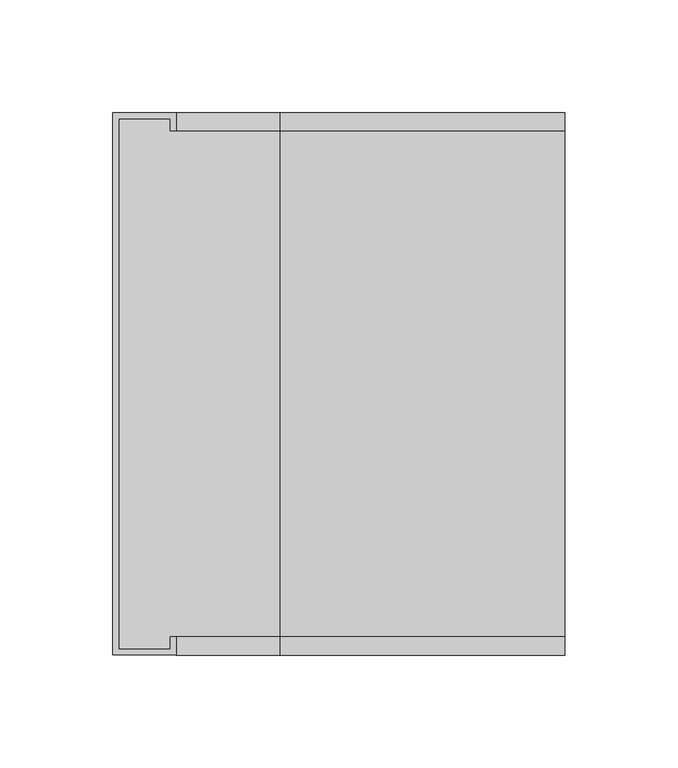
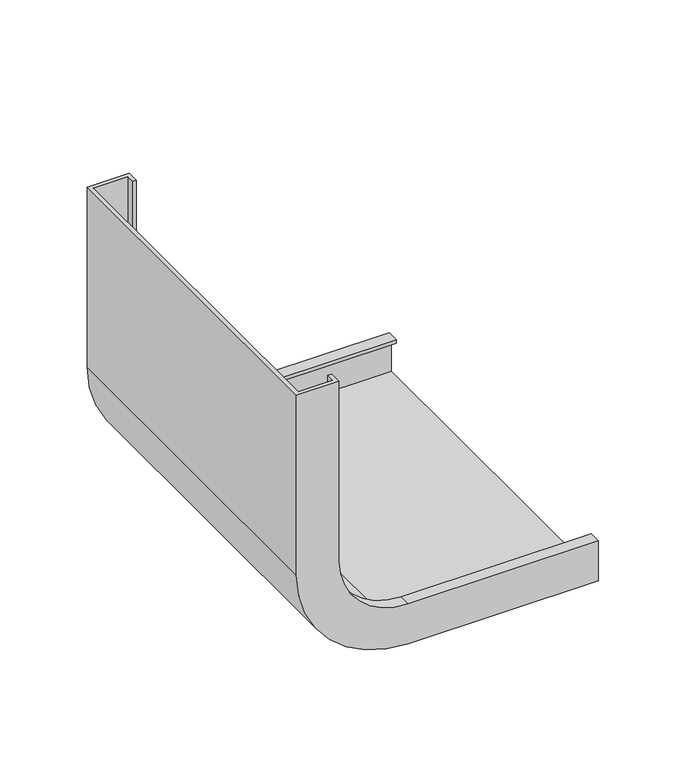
"""IFC4 building model written with IfcOpenShell, lengths in millimetres: cable carrier fitting geometry, Electrical-Installations_Hager_Vertical-Elbow-UKK : Vertical-Elbow-2-Compartments-UKK."""

from ifc_helpers import new_model, si_unit, frame, origin, place, context, project, spatial, polyline, circle_curve, source, transform, mapped, element, save
from ifc_brep_helpers import plane_surface, cylinder_surface, revolved_surface, advanced_brep


def cable_carrier_fitting_1449447f(model_context):
    return source(origin(), model_context, "Body", "AdvancedBrep", [
        advanced_brep(
        [(0.0, -120.0, 14.0), (0.0, -120.0, -14.0), (0.0, 120.0, -14.0), (0.0, 120.0, 14.0), (0.0, 112.0398749, 14.0), (0.0, 112.0398749, 11.46), (0.0, 117.46, 11.46), (0.0, 117.46, -11.46), (0.0, -117.46, -11.46), (0.0, -117.46, 11.46), (0.0, -111.8310402, 11.46), (0.0, -111.8310402, 14.0), (-126.0, -120.0, 14.0), (-172.0, -120.0, 60.0), (-172.0, -120.0, 186.0), (-200.0, -120.0, 186.0), (-200.0, -120.0, 60.0), (-126.0, -120.0, -14.0), (-126.0, 120.0, -14.0), (-200.0, 120.0, 60.0), (-200.0, 120.0, 186.0), (-172.0, 120.0, 186.0), (-172.0, 120.0, 60.0), (-126.0, 120.0, 14.0), (-126.0, 112.0398749, 14.0), (-172.0, 112.0398749, 60.0), (-172.0, 112.0398749, 186.0), (-174.54, 112.0398749, 186.0), (-174.54, 112.0398749, 60.0), (-126.0, 112.0398749, 11.46), (-126.0, 117.46, 11.46), (-174.54, 117.46, 60.0), (-174.54, 117.46, 186.0), (-197.46, 117.46, 186.0), (-197.46, 117.46, 60.0), (-126.0, 117.46, -11.46), (-126.0, -117.46, -11.46), (-197.46, -117.46, 60.0), (-197.46, -117.46, 186.0), (-174.54, -117.46, 186.0), (-174.54, -117.46, 60.0), (-126.0, -117.46, 11.46), (-126.0, -111.8310402, 11.46), (-174.54, -111.8310402, 60.0), (-174.54, -111.8310402, 186.0), (-172.0, -111.8310402, 186.0), (-172.0, -111.8310402, 60.0), (-126.0, -111.8310402, 14.0)],
        [
            (0, 1),
            (1, 2),
            (2, 3),
            (3, 4),
            (4, 5),
            (5, 6),
            (6, 7),
            (7, 8),
            (8, 9),
            (9, 10),
            (10, 11),
            (11, 0),
            (0, 12),
            (12, 13, circle_curve(frame((-126.0, -120.0, 60.0), z_axis=(0.0, 1.0, 0.0), x_axis=(0.0, 0.0, -1.0)), 46.0)),
            (13, 14),
            (14, 15),
            (15, 16),
            (16, 17, circle_curve(frame((-126.0, -120.0, 60.0), z_axis=(0.0, -1.0, 0.0), x_axis=(0.0, 0.0, -1.0)), 74.0)),
            (17, 1),
            (17, 18),
            (18, 2),
            (18, 19, circle_curve(frame((-126.0, 120.0, 60.0), z_axis=(0.0, 1.0, 0.0), x_axis=(0.0, 0.0, -1.0)), 74.0)),
            (19, 20),
            (20, 21),
            (21, 22),
            (22, 23, circle_curve(frame((-126.0, 120.0, 60.0), z_axis=(0.0, -1.0, 0.0), x_axis=(0.0, 0.0, -1.0)), 46.0)),
            (23, 3),
            (23, 24),
            (24, 4),
            (24, 25, circle_curve(frame((-126.0, 112.0398749, 60.0), z_axis=(0.0, 1.0, 0.0), x_axis=(0.0, 0.0, -1.0)), 46.0)),
            (25, 26),
            (26, 27),
            (27, 28),
            (28, 29, circle_curve(frame((-126.0, 112.0398749, 60.0), z_axis=(0.0, -1.0, 0.0), x_axis=(0.0, 0.0, -1.0)), 48.54)),
            (29, 5),
            (29, 30),
            (30, 6),
            (30, 31, circle_curve(frame((-126.0, 117.46, 60.0), z_axis=(0.0, 1.0, 0.0), x_axis=(0.0, 0.0, -1.0)), 48.54)),
            (31, 32),
            (32, 33),
            (33, 34),
            (34, 35, circle_curve(frame((-126.0, 117.46, 60.0), z_axis=(0.0, -1.0, 0.0), x_axis=(0.0, 0.0, -1.0)), 71.46)),
            (35, 7),
            (35, 36),
            (36, 8),
            (36, 37, circle_curve(frame((-126.0, -117.46, 60.0), z_axis=(0.0, 1.0, 0.0), x_axis=(0.0, 0.0, -1.0)), 71.46)),
            (37, 38),
            (38, 39),
            (39, 40),
            (40, 41, circle_curve(frame((-126.0, -117.46, 60.0), z_axis=(0.0, -1.0, 0.0), x_axis=(0.0, 0.0, -1.0)), 48.54)),
            (41, 9),
            (41, 42),
            (42, 10),
            (42, 43, circle_curve(frame((-126.0, -111.8310402, 60.0), z_axis=(0.0, 1.0, 0.0), x_axis=(0.0, 0.0, -1.0)), 48.54)),
            (43, 44),
            (44, 45),
            (45, 46),
            (46, 47, circle_curve(frame((-126.0, -111.8310402, 60.0), z_axis=(0.0, -1.0, 0.0), x_axis=(0.0, 0.0, -1.0)), 46.0)),
            (47, 11),
            (47, 12),
            (14, 45),
            (44, 39),
            (38, 33),
            (32, 27),
            (26, 21),
            (20, 15),
            (19, 16),
            (25, 22),
            (31, 28),
            (37, 34),
            (43, 40),
            (13, 46),
        ],
        [
            plane_surface(frame((0.0, 0.0, 0.0), z_axis=(1.0, 0.0, 0.0), x_axis=(0.0, -1.0, 0.0))),
            plane_surface(frame((0.0, -120.0, 14.0), z_axis=(0.0, -1.0, 0.0), x_axis=(-1.0, 0.0, 0.0))),
            plane_surface(frame((0.0, -120.0, -14.0), z_axis=(0.0, 0.0, -1.0), x_axis=(-1.0, 0.0, 0.0))),
            plane_surface(frame((0.0, 120.0, -14.0), z_axis=(0.0, 1.0, 0.0), x_axis=(-1.0, 0.0, 0.0))),
            plane_surface(frame((0.0, 120.0, 14.0), z_axis=(0.0, 0.0, 1.0), x_axis=(-1.0, 0.0, 0.0))),
            plane_surface(frame((0.0, 112.0398749, 14.0), z_axis=(0.0, -1.0, 0.0), x_axis=(-1.0, 0.0, 0.0))),
            plane_surface(frame((0.0, 112.0398749, 11.46), z_axis=(0.0, 0.0, -1.0), x_axis=(-1.0, 0.0, 0.0))),
            plane_surface(frame((0.0, 117.46, 11.46), z_axis=(0.0, -1.0, 0.0), x_axis=(-1.0, 0.0, 0.0))),
            plane_surface(frame((0.0, 117.46, -11.46), z_axis=(0.0, 0.0, 1.0), x_axis=(-1.0, 0.0, 0.0))),
            plane_surface(frame((0.0, -117.46, -11.46), z_axis=(0.0, 1.0, 0.0), x_axis=(-1.0, 0.0, 0.0))),
            plane_surface(frame((0.0, -117.46, 11.46), z_axis=(0.0, 0.0, -1.0), x_axis=(-1.0, 0.0, 0.0))),
            plane_surface(frame((0.0, -111.8310402, 11.46), z_axis=(0.0, 1.0, 0.0), x_axis=(-1.0, 0.0, 0.0))),
            plane_surface(frame((0.0, -111.8310402, 14.0), z_axis=(0.0, 0.0, 1.0), x_axis=(-1.0, 0.0, 0.0))),
            plane_surface(frame((-186.0, 0.0, 186.0), z_axis=(0.0, 0.0, 1.0), x_axis=(0.0, -1.0, 0.0))),
            plane_surface(frame((-200.0, -120.0, 60.0), z_axis=(-1.0, 0.0, 0.0), x_axis=(0.0, 0.0, 1.0))),
            plane_surface(frame((-172.0, 120.0, 60.0), z_axis=(1.0, 0.0, 0.0), x_axis=(0.0, 0.0, 1.0))),
            plane_surface(frame((-174.54, 112.0398749, 60.0), z_axis=(-1.0, 0.0, 0.0), x_axis=(0.0, 0.0, 1.0))),
            plane_surface(frame((-197.46, 117.46, 60.0), z_axis=(1.0, 0.0, 0.0), x_axis=(0.0, 0.0, 1.0))),
            plane_surface(frame((-174.54, -117.46, 60.0), z_axis=(-1.0, 0.0, 0.0), x_axis=(0.0, 0.0, 1.0))),
            plane_surface(frame((-172.0, -111.8310402, 60.0), z_axis=(1.0, 0.0, 0.0), x_axis=(0.0, 0.0, 1.0))),
            cylinder_surface(frame((-126.0, 0.0, 60.0), z_axis=(0.0, 1.0, 0.0), x_axis=(0.0, 0.0, -1.0)), 74.0),
            revolved_surface(polyline([(-126.0, 120.0, 14.0), (-126.0, 112.0398749, 14.0)]), (-126.0, 0.0, 60.0), (0.0, 1.0, 0.0)),
            cylinder_surface(frame((-126.0, 0.0, 60.0), z_axis=(0.0, 1.0, 0.0), x_axis=(0.0, 0.0, -1.0)), 48.54),
            revolved_surface(polyline([(-126.0, 117.46, -11.459999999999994), (-126.0, -117.46, -11.459999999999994)]), (-126.0, 0.0, 60.0), (0.0, 1.0, 0.0)),
            revolved_surface(polyline([(-126.0, -111.8310402, 14.0), (-126.0, -120.0, 14.0)]), (-126.0, 0.0, 60.0), (0.0, 1.0, 0.0)),
        ],
        [
            (0, [[1, 2, 3, 4, 5, 6, 7, 8, 9, 10, 11, 12]]),
            (1, [[-1, 13, 14, 15, 16, 17, 18, 19]]),
            (2, [[-2, -19, 20, 21]]),
            (3, [[-3, -21, 22, 23, 24, 25, 26, 27]]),
            (4, [[-4, -27, 28, 29]]),
            (5, [[-5, -29, 30, 31, 32, 33, 34, 35]]),
            (6, [[-6, -35, 36, 37]]),
            (7, [[-7, -37, 38, 39, 40, 41, 42, 43]]),
            (8, [[-8, -43, 44, 45]]),
            (9, [[-9, -45, 46, 47, 48, 49, 50, 51]]),
            (10, [[-10, -51, 52, 53]]),
            (11, [[-11, -53, 54, 55, 56, 57, 58, 59]]),
            (12, [[-12, -59, 60, -13]]),
            (13, [[61, -56, 62, -48, 63, -40, 64, -32, 65, -24, 66, -16]]),
            (14, [[67, -17, -66, -23]]),
            (15, [[68, -25, -65, -31]]),
            (16, [[69, -33, -64, -39]]),
            (17, [[70, -41, -63, -47]]),
            (18, [[71, -49, -62, -55]]),
            (19, [[72, -57, -61, -15]]),
            (20, [[-22, -20, -18, -67]]),
            (21, [[-30, -28, -26, -68]]),
            (22, [[-38, -36, -34, -69]]),
            (23, [[-46, -44, -42, -70]]),
            (22, [[-54, -52, -50, -71]]),
            (24, [[-14, -60, -58, -72]]),
        ],
    ),
    ])


if __name__ == "__main__":
    model = new_model("IFC4")
    model_context = context("Model", 3, world=origin())
    ifc_project = project(units=[si_unit("LENGTHUNIT", "METRE", prefix="MILLI")], contexts=[model_context])
    site = spatial("IfcSite", under=ifc_project)
    building = spatial("IfcBuilding", under=site)
    placement = place(None, origin())
    cable_carrier_fitting_shape = cable_carrier_fitting_1449447f(model_context)
    element("IfcCableCarrierFitting", 1, ObjectType="Electrical-Installations_Hager_Vertical-Elbow-UKK : Vertical-Elbow-2-Compartments-UKK", at=placement, inside=building, context=model_context, shape_type="MappedRepresentation", body=[
        mapped(cable_carrier_fitting_shape, transform((0.0, 0.0, 0.0), x_axis=(1.0, 0.0, 0.0), y_axis=(0.0, 1.0, 0.0), z_axis=(0.0, 0.0, 1.0))),
    ])
    save(model, "model.ifc")
